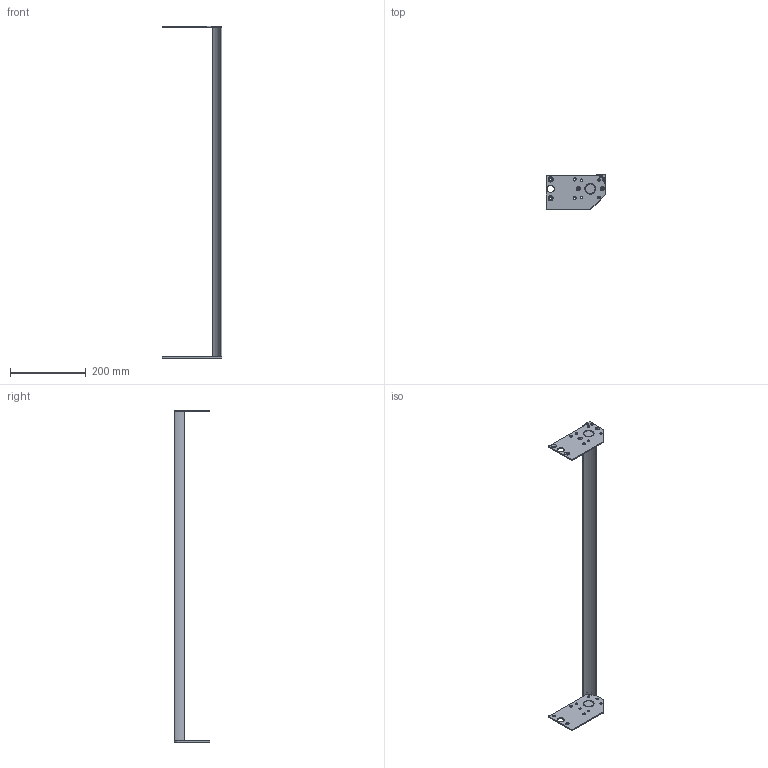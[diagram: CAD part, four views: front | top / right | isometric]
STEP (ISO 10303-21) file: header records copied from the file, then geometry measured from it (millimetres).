
FILE_DESCRIPTION((''),'2;1');
FILE_NAME('351039-34_ASM','2023-03-14T',('jenni.wallner'),(''),'PRO/ENGINEER BY PARAMETRIC TECHNOLOGY CORPORATION, 2012420','PRO/ENGINEER BY PARAMETRIC TECHNOLOGY CORPORATION, 2012420','');
FILE_SCHEMA(('CONFIG_CONTROL_DESIGN'));
Length unit declared in the file: inch
Products named in the file (6): 350540; 350541; 9304XXM_930410M; 350539-WW_350539-34; ASM0001_ASM; 351039-34_ASM
Assembly tree (8 placements, depth 3):
  351039-34_ASM
    ASM0001_ASM
      350540
      350541
      9304XXM_930410M  x4
      350539-WW_350539-34
Bounding box: 157.96 x 92.74 x 875.69 mm (x, y, z)
Volume: 320142 mm3; surface area: 152171.7 mm2
Topology: 7 solids, 7 shells, 227 faces, 567 edges, 354 vertices
Faces by surface type: cylinder 93, cone 68, plane 66
Entity records: 5408 total; most frequent: DIRECTION 978, CARTESIAN_POINT 969, ORIENTED_EDGE 852, EDGE_CURVE 426, AXIS2_PLACEMENT_3D 390, VERTEX_POINT 276, EDGE_LOOP 216, CIRCLE 214
